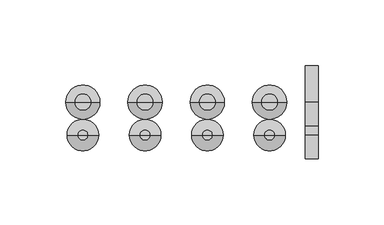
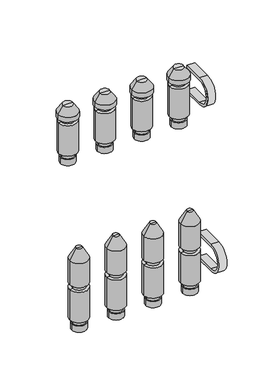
"""IFC4 building model written with IfcOpenShell, lengths in millimetres: valve geometry, PL AT_Manifold_FT-EV : 04 circuits."""

from ifc_helpers import new_model, si_unit, point, frame, frame_2d, origin, origin_2d, place, context, project, spatial, polyline, circle_curve, trimmed, segment, composite_curve, outline, extrude, source, transform, mapped, element, save
from ifc_brep_helpers import plane_surface, cylinder_surface, revolved_surface, advanced_brep


def valve_06e325c5(model_context):
    return source(origin(), model_context, "Body", "SolidModel", [
        advanced_brep(
        [(127.1666667, 0.0, -35.11267), (146.1666667, 0.0, -35.11267), (136.6666667, 0.0, -35.11267), (127.1666667, 0.0, -27.0369646), (146.1666667, 0.0, -27.0369646), (128.6666667, 0.0, -27.0369646), (144.6666667, 0.0, -27.0369646), (128.6666667, 0.0, -20.330253), (144.6666667, 0.0, -20.330253), (124.6666667, 0.0, -20.330253), (148.6666667, 0.0, -20.330253), (124.6666667, 0.0, 20.330253), (148.6666667, 0.0, 20.330253), (128.6666667, 0.0, 20.330253), (144.6666667, 0.0, 20.330253), (128.6666667, 0.0, 27.0474786), (144.6666667, 0.0, 27.0474786), (124.6666667, 0.0, 27.0474786), (148.6666667, 0.0, 27.0474786), (124.6666667, 0.0, 59.4084325), (148.6666667, 0.0, 59.4084325), (132.6666667, 0.0, 73.264839), (140.6666667, 0.0, 73.264839), (136.6666667, 0.0, 73.264839)],
        [
            (0, 1, circle_curve(frame((136.6666667, 0.0, -35.11267), z_axis=(0.0, 0.0, -1.0), x_axis=(1.0, 0.0, 0.0)), 9.5)),
            (1, 2),
            (2, 0),
            (1, 0, circle_curve(frame((136.6666667, 0.0, -35.11267), z_axis=(0.0, 0.0, -1.0), x_axis=(1.0, 0.0, 0.0)), 9.5)),
            (3, 4, circle_curve(frame((136.6666667, 0.0, -27.0369646), z_axis=(0.0, 0.0, -1.0), x_axis=(1.0, 0.0, 0.0)), 9.5)),
            (4, 1),
            (0, 3),
            (4, 3, circle_curve(frame((136.6666667, 0.0, -27.0369646), z_axis=(0.0, 0.0, -1.0), x_axis=(1.0, 0.0, 0.0)), 9.5)),
            (5, 6, circle_curve(frame((136.6666667, 0.0, -27.0369646), z_axis=(0.0, 0.0, -1.0), x_axis=(1.0, 0.0, 0.0)), 8.0)),
            (6, 4),
            (3, 5),
            (6, 5, circle_curve(frame((136.6666667, 0.0, -27.0369646), z_axis=(0.0, 0.0, -1.0), x_axis=(1.0, 0.0, 0.0)), 8.0)),
            (7, 8, circle_curve(frame((136.6666667, 0.0, -20.330253), z_axis=(0.0, 0.0, -1.0), x_axis=(1.0, 0.0, 0.0)), 8.0)),
            (8, 6),
            (5, 7),
            (8, 7, circle_curve(frame((136.6666667, 0.0, -20.330253), z_axis=(0.0, 0.0, -1.0), x_axis=(1.0, 0.0, 0.0)), 8.0)),
            (9, 10, circle_curve(frame((136.6666667, 0.0, -20.330253), z_axis=(0.0, 0.0, -1.0), x_axis=(1.0, 0.0, 0.0)), 12.0)),
            (10, 8),
            (7, 9),
            (10, 9, circle_curve(frame((136.6666667, 0.0, -20.330253), z_axis=(0.0, 0.0, -1.0), x_axis=(1.0, 0.0, 0.0)), 12.0)),
            (11, 12, circle_curve(frame((136.6666667, 0.0, 20.330253), z_axis=(0.0, 0.0, -1.0), x_axis=(1.0, 0.0, 0.0)), 12.0)),
            (12, 10),
            (9, 11),
            (12, 11, circle_curve(frame((136.6666667, 0.0, 20.330253), z_axis=(0.0, 0.0, -1.0), x_axis=(1.0, 0.0, 0.0)), 12.0)),
            (13, 14, circle_curve(frame((136.6666667, 0.0, 20.330253), z_axis=(0.0, 0.0, -1.0), x_axis=(1.0, 0.0, 0.0)), 8.0)),
            (14, 12),
            (11, 13),
            (14, 13, circle_curve(frame((136.6666667, 0.0, 20.330253), z_axis=(0.0, 0.0, -1.0), x_axis=(1.0, 0.0, 0.0)), 8.0)),
            (15, 16, circle_curve(frame((136.6666667, 0.0, 27.0474786), z_axis=(0.0, 0.0, -1.0), x_axis=(1.0, 0.0, 0.0)), 8.0)),
            (16, 14),
            (13, 15),
            (16, 15, circle_curve(frame((136.6666667, 0.0, 27.0474786), z_axis=(0.0, 0.0, -1.0), x_axis=(1.0, 0.0, 0.0)), 8.0)),
            (17, 18, circle_curve(frame((136.6666667, 0.0, 27.0474786), z_axis=(0.0, 0.0, -1.0), x_axis=(1.0, 0.0, 0.0)), 12.0)),
            (18, 16),
            (15, 17),
            (18, 17, circle_curve(frame((136.6666667, 0.0, 27.0474786), z_axis=(0.0, 0.0, -1.0), x_axis=(1.0, 0.0, 0.0)), 12.0)),
            (19, 20, circle_curve(frame((136.6666667, 0.0, 59.4084325), z_axis=(0.0, 0.0, -1.0), x_axis=(1.0, 0.0, 0.0)), 12.0)),
            (20, 18),
            (17, 19),
            (20, 19, circle_curve(frame((136.6666667, 0.0, 59.4084325), z_axis=(0.0, 0.0, -1.0), x_axis=(1.0, 0.0, 0.0)), 12.0)),
            (21, 22, circle_curve(frame((136.6666667, 0.0, 73.264839), z_axis=(0.0, 0.0, -1.0), x_axis=(1.0, 0.0, 0.0)), 4.0)),
            (22, 20),
            (19, 21),
            (22, 21, circle_curve(frame((136.6666667, 0.0, 73.264839), z_axis=(0.0, 0.0, -1.0), x_axis=(1.0, 0.0, 0.0)), 4.0)),
            (23, 22),
            (21, 23),
        ],
        [
            plane_surface(frame((136.6666667, 0.0, -35.11267), z_axis=(0.0, 0.0, -1.0), x_axis=(1.0, 0.0, 0.0))),
            cylinder_surface(frame((136.6666667, 0.0, 58.264839), z_axis=(0.0, 0.0, 1.0), x_axis=(1.0, 0.0, 0.0)), 9.5),
            plane_surface(frame((136.6666667, 0.0, -27.0369646), z_axis=(0.0, 0.0, 1.0), x_axis=(1.0, 0.0, 0.0))),
            cylinder_surface(frame((136.6666667, 0.0, 58.264839), z_axis=(0.0, 0.0, 1.0), x_axis=(1.0, 0.0, 0.0)), 8.0),
            plane_surface(frame((136.6666667, 0.0, -20.330253), z_axis=(0.0, 0.0, -1.0), x_axis=(1.0, 0.0, 0.0))),
            cylinder_surface(frame((136.6666667, 0.0, 58.264839), z_axis=(0.0, 0.0, 1.0), x_axis=(1.0, 0.0, 0.0)), 12.0),
            plane_surface(frame((136.6666667, 0.0, 20.330253), z_axis=(0.0, 0.0, 1.0), x_axis=(1.0, 0.0, 0.0))),
            plane_surface(frame((136.6666667, 0.0, 27.0474786), z_axis=(0.0, 0.0, -1.0), x_axis=(1.0, 0.0, 0.0))),
            revolved_surface(polyline([(148.6666667, 0.0, 59.4084325), (140.6666667, 0.0, 73.264839)]), (136.6666667, 0.0, 58.264839), (0.0, 0.0, 1.0)),
            plane_surface(frame((136.6666667, 0.0, 73.264839), z_axis=(0.0, 0.0, 1.0), x_axis=(1.0, 0.0, 0.0))),
        ],
        [
            (0, [[1, 2, 3]]),
            (0, [[4, -3, -2]]),
            (1, [[5, 6, -1, 7]]),
            (1, [[8, -7, -4, -6]]),
            (2, [[9, 10, -5, 11]]),
            (2, [[12, -11, -8, -10]]),
            (3, [[13, 14, -9, 15]]),
            (3, [[16, -15, -12, -14]]),
            (4, [[17, 18, -13, 19]]),
            (4, [[20, -19, -16, -18]]),
            (5, [[21, 22, -17, 23]]),
            (5, [[24, -23, -20, -22]]),
            (6, [[25, 26, -21, 27]]),
            (6, [[28, -27, -24, -26]]),
            (3, [[29, 30, -25, 31]]),
            (3, [[32, -31, -28, -30]]),
            (7, [[33, 34, -29, 35]]),
            (7, [[36, -35, -32, -34]]),
            (5, [[37, 38, -33, 39]]),
            (5, [[40, -39, -36, -38]]),
            (8, [[41, 42, -37, 43]]),
            (8, [[44, -43, -40, -42]]),
            (9, [[45, -41, 46]]),
            (9, [[-46, -44, -45]]),
        ],
    ),
        advanced_brep(
        [(127.1666667, 25.0, 174.88733), (146.1666667, 25.0, 174.88733), (136.6666667, 25.0, 174.88733), (127.1666667, 25.0, 182.9630354), (146.1666667, 25.0, 182.9630354), (128.6666667, 25.0, 182.9630354), (144.6666667, 25.0, 182.9630354), (128.6666667, 25.0, 189.669747), (144.6666667, 25.0, 189.669747), (124.6666667, 25.0, 189.669747), (148.6666667, 25.0, 189.669747), (124.6666667, 25.0, 230.330253), (148.6666667, 25.0, 230.330253), (128.6666667, 25.0, 230.330253), (144.6666667, 25.0, 230.330253), (128.6666667, 25.0, 236.0474786), (144.6666667, 25.0, 236.0474786), (123.6666667, 25.0, 236.0474786), (149.6666667, 25.0, 236.0474786), (123.6666667, 25.0, 242.337955), (149.6666667, 25.0, 242.337955), (130.3218445, 25.0, 251.842534), (143.0114888, 25.0, 251.842534), (136.6666667, 25.0, 251.842534)],
        [
            (0, 1, circle_curve(frame((136.6666667, 25.0, 174.88733), z_axis=(0.0, 0.0, -1.0), x_axis=(1.0, 0.0, 0.0)), 9.5)),
            (1, 2),
            (2, 0),
            (1, 0, circle_curve(frame((136.6666667, 25.0, 174.88733), z_axis=(0.0, 0.0, -1.0), x_axis=(1.0, 0.0, 0.0)), 9.5)),
            (3, 4, circle_curve(frame((136.6666667, 25.0, 182.9630354), z_axis=(0.0, 0.0, -1.0), x_axis=(1.0, 0.0, 0.0)), 9.5)),
            (4, 1),
            (0, 3),
            (4, 3, circle_curve(frame((136.6666667, 25.0, 182.9630354), z_axis=(0.0, 0.0, -1.0), x_axis=(1.0, 0.0, 0.0)), 9.5)),
            (5, 6, circle_curve(frame((136.6666667, 25.0, 182.9630354), z_axis=(0.0, 0.0, -1.0), x_axis=(1.0, 0.0, 0.0)), 8.0)),
            (6, 4),
            (3, 5),
            (6, 5, circle_curve(frame((136.6666667, 25.0, 182.9630354), z_axis=(0.0, 0.0, -1.0), x_axis=(1.0, 0.0, 0.0)), 8.0)),
            (7, 8, circle_curve(frame((136.6666667, 25.0, 189.669747), z_axis=(0.0, 0.0, -1.0), x_axis=(1.0, 0.0, 0.0)), 8.0)),
            (8, 6),
            (5, 7),
            (8, 7, circle_curve(frame((136.6666667, 25.0, 189.669747), z_axis=(0.0, 0.0, -1.0), x_axis=(1.0, 0.0, 0.0)), 8.0)),
            (9, 10, circle_curve(frame((136.6666667, 25.0, 189.669747), z_axis=(0.0, 0.0, -1.0), x_axis=(1.0, 0.0, 0.0)), 12.0)),
            (10, 8),
            (7, 9),
            (10, 9, circle_curve(frame((136.6666667, 25.0, 189.669747), z_axis=(0.0, 0.0, -1.0), x_axis=(1.0, 0.0, 0.0)), 12.0)),
            (11, 12, circle_curve(frame((136.6666667, 25.0, 230.330253), z_axis=(0.0, 0.0, -1.0), x_axis=(1.0, 0.0, 0.0)), 12.0)),
            (12, 10),
            (9, 11),
            (12, 11, circle_curve(frame((136.6666667, 25.0, 230.330253), z_axis=(0.0, 0.0, -1.0), x_axis=(1.0, 0.0, 0.0)), 12.0)),
            (13, 14, circle_curve(frame((136.6666667, 25.0, 230.330253), z_axis=(0.0, 0.0, -1.0), x_axis=(1.0, 0.0, 0.0)), 8.0)),
            (14, 12),
            (11, 13),
            (14, 13, circle_curve(frame((136.6666667, 25.0, 230.330253), z_axis=(0.0, 0.0, -1.0), x_axis=(1.0, 0.0, 0.0)), 8.0)),
            (15, 16, circle_curve(frame((136.6666667, 25.0, 236.0474786), z_axis=(0.0, 0.0, -1.0), x_axis=(1.0, 0.0, 0.0)), 8.0)),
            (16, 14),
            (13, 15),
            (16, 15, circle_curve(frame((136.6666667, 25.0, 236.0474786), z_axis=(0.0, 0.0, -1.0), x_axis=(1.0, 0.0, 0.0)), 8.0)),
            (17, 18, circle_curve(frame((136.6666667, 25.0, 236.0474786), z_axis=(0.0, 0.0, -1.0), x_axis=(1.0, 0.0, 0.0)), 13.0)),
            (18, 16),
            (15, 17),
            (18, 17, circle_curve(frame((136.6666667, 25.0, 236.0474786), z_axis=(0.0, 0.0, -1.0), x_axis=(1.0, 0.0, 0.0)), 13.0)),
            (19, 20, circle_curve(frame((136.6666667, 25.0, 242.337955), z_axis=(0.0, 0.0, -1.0), x_axis=(1.0, 0.0, 0.0)), 13.0)),
            (20, 18),
            (17, 19),
            (20, 19, circle_curve(frame((136.6666667, 25.0, 242.337955), z_axis=(0.0, 0.0, -1.0), x_axis=(1.0, 0.0, 0.0)), 13.0)),
            (21, 22, circle_curve(frame((136.6666667, 25.0, 251.842534), z_axis=(0.0, 0.0, -1.0), x_axis=(1.0, 0.0, 0.0)), 6.3448221)),
            (22, 20),
            (19, 21),
            (22, 21, circle_curve(frame((136.6666667, 25.0, 251.842534), z_axis=(0.0, 0.0, -1.0), x_axis=(1.0, 0.0, 0.0)), 6.3448221)),
            (23, 22),
            (21, 23),
        ],
        [
            plane_surface(frame((136.6666667, 25.0, 174.88733), z_axis=(0.0, 0.0, -1.0), x_axis=(1.0, 0.0, 0.0))),
            cylinder_surface(frame((136.6666667, 25.0, 247.7026565), z_axis=(0.0, 0.0, 1.0), x_axis=(1.0, 0.0, 0.0)), 9.5),
            plane_surface(frame((136.6666667, 25.0, 182.9630354), z_axis=(0.0, 0.0, 1.0), x_axis=(1.0, 0.0, 0.0))),
            cylinder_surface(frame((136.6666667, 25.0, 247.7026565), z_axis=(0.0, 0.0, 1.0), x_axis=(1.0, 0.0, 0.0)), 8.0),
            plane_surface(frame((136.6666667, 25.0, 189.669747), z_axis=(0.0, 0.0, -1.0), x_axis=(1.0, 0.0, 0.0))),
            cylinder_surface(frame((136.6666667, 25.0, 247.7026565), z_axis=(0.0, 0.0, 1.0), x_axis=(1.0, 0.0, 0.0)), 12.0),
            plane_surface(frame((136.6666667, 25.0, 230.330253), z_axis=(0.0, 0.0, 1.0), x_axis=(1.0, 0.0, 0.0))),
            plane_surface(frame((136.6666667, 25.0, 236.0474786), z_axis=(0.0, 0.0, -1.0), x_axis=(1.0, 0.0, 0.0))),
            cylinder_surface(frame((136.6666667, 25.0, 247.7026565), z_axis=(0.0, 0.0, 1.0), x_axis=(1.0, 0.0, 0.0)), 13.0),
            revolved_surface(polyline([(149.6666667, 25.0, 242.337955), (143.0114888, 25.0, 251.842534)]), (136.6666667, 25.0, 247.7026565), (0.0, 0.0, 1.0)),
            plane_surface(frame((136.6666667, 25.0, 251.842534), z_axis=(0.0, 0.0, 1.0), x_axis=(1.0, 0.0, 0.0))),
        ],
        [
            (0, [[1, 2, 3]]),
            (0, [[4, -3, -2]]),
            (1, [[5, 6, -1, 7]]),
            (1, [[8, -7, -4, -6]]),
            (2, [[9, 10, -5, 11]]),
            (2, [[12, -11, -8, -10]]),
            (3, [[13, 14, -9, 15]]),
            (3, [[16, -15, -12, -14]]),
            (4, [[17, 18, -13, 19]]),
            (4, [[20, -19, -16, -18]]),
            (5, [[21, 22, -17, 23]]),
            (5, [[24, -23, -20, -22]]),
            (6, [[25, 26, -21, 27]]),
            (6, [[28, -27, -24, -26]]),
            (3, [[29, 30, -25, 31]]),
            (3, [[32, -31, -28, -30]]),
            (7, [[33, 34, -29, 35]]),
            (7, [[36, -35, -32, -34]]),
            (8, [[37, 38, -33, 39]]),
            (8, [[40, -39, -36, -38]]),
            (9, [[41, 42, -37, 43]]),
            (9, [[44, -43, -40, -42]]),
            (10, [[45, -41, 46]]),
            (10, [[-46, -44, -45]]),
        ],
    ),
        advanced_brep(
        [(79.8333333, 0.0, -35.11267), (98.8333333, 0.0, -35.11267), (89.3333333, 0.0, -35.11267), (79.8333333, 0.0, -27.0369646), (98.8333333, 0.0, -27.0369646), (81.3333333, 0.0, -27.0369646), (97.3333333, 0.0, -27.0369646), (81.3333333, 0.0, -20.330253), (97.3333333, 0.0, -20.330253), (77.3333333, 0.0, -20.330253), (101.3333333, 0.0, -20.330253), (77.3333333, 0.0, 20.330253), (101.3333333, 0.0, 20.330253), (81.3333333, 0.0, 20.330253), (97.3333333, 0.0, 20.330253), (81.3333333, 0.0, 27.0474786), (97.3333333, 0.0, 27.0474786), (77.3333333, 0.0, 27.0474786), (101.3333333, 0.0, 27.0474786), (77.3333333, 0.0, 59.4084325), (101.3333333, 0.0, 59.4084325), (85.3333333, 0.0, 73.264839), (93.3333333, 0.0, 73.264839), (89.3333333, 0.0, 73.264839)],
        [
            (0, 1, circle_curve(frame((89.3333333, 0.0, -35.11267), z_axis=(0.0, 0.0, -1.0), x_axis=(1.0, 0.0, 0.0)), 9.5)),
            (1, 2),
            (2, 0),
            (1, 0, circle_curve(frame((89.3333333, 0.0, -35.11267), z_axis=(0.0, 0.0, -1.0), x_axis=(1.0, 0.0, 0.0)), 9.5)),
            (3, 4, circle_curve(frame((89.3333333, 0.0, -27.0369646), z_axis=(0.0, 0.0, -1.0), x_axis=(1.0, 0.0, 0.0)), 9.5)),
            (4, 1),
            (0, 3),
            (4, 3, circle_curve(frame((89.3333333, 0.0, -27.0369646), z_axis=(0.0, 0.0, -1.0), x_axis=(1.0, 0.0, 0.0)), 9.5)),
            (5, 6, circle_curve(frame((89.3333333, 0.0, -27.0369646), z_axis=(0.0, 0.0, -1.0), x_axis=(1.0, 0.0, 0.0)), 8.0)),
            (6, 4),
            (3, 5),
            (6, 5, circle_curve(frame((89.3333333, 0.0, -27.0369646), z_axis=(0.0, 0.0, -1.0), x_axis=(1.0, 0.0, 0.0)), 8.0)),
            (7, 8, circle_curve(frame((89.3333333, 0.0, -20.330253), z_axis=(0.0, 0.0, -1.0), x_axis=(1.0, 0.0, 0.0)), 8.0)),
            (8, 6),
            (5, 7),
            (8, 7, circle_curve(frame((89.3333333, 0.0, -20.330253), z_axis=(0.0, 0.0, -1.0), x_axis=(1.0, 0.0, 0.0)), 8.0)),
            (9, 10, circle_curve(frame((89.3333333, 0.0, -20.330253), z_axis=(0.0, 0.0, -1.0), x_axis=(1.0, 0.0, 0.0)), 12.0)),
            (10, 8),
            (7, 9),
            (10, 9, circle_curve(frame((89.3333333, 0.0, -20.330253), z_axis=(0.0, 0.0, -1.0), x_axis=(1.0, 0.0, 0.0)), 12.0)),
            (11, 12, circle_curve(frame((89.3333333, 0.0, 20.330253), z_axis=(0.0, 0.0, -1.0), x_axis=(1.0, 0.0, 0.0)), 12.0)),
            (12, 10),
            (9, 11),
            (12, 11, circle_curve(frame((89.3333333, 0.0, 20.330253), z_axis=(0.0, 0.0, -1.0), x_axis=(1.0, 0.0, 0.0)), 12.0)),
            (13, 14, circle_curve(frame((89.3333333, 0.0, 20.330253), z_axis=(0.0, 0.0, -1.0), x_axis=(1.0, 0.0, 0.0)), 8.0)),
            (14, 12),
            (11, 13),
            (14, 13, circle_curve(frame((89.3333333, 0.0, 20.330253), z_axis=(0.0, 0.0, -1.0), x_axis=(1.0, 0.0, 0.0)), 8.0)),
            (15, 16, circle_curve(frame((89.3333333, 0.0, 27.0474786), z_axis=(0.0, 0.0, -1.0), x_axis=(1.0, 0.0, 0.0)), 8.0)),
            (16, 14),
            (13, 15),
            (16, 15, circle_curve(frame((89.3333333, 0.0, 27.0474786), z_axis=(0.0, 0.0, -1.0), x_axis=(1.0, 0.0, 0.0)), 8.0)),
            (17, 18, circle_curve(frame((89.3333333, 0.0, 27.0474786), z_axis=(0.0, 0.0, -1.0), x_axis=(1.0, 0.0, 0.0)), 12.0)),
            (18, 16),
            (15, 17),
            (18, 17, circle_curve(frame((89.3333333, 0.0, 27.0474786), z_axis=(0.0, 0.0, -1.0), x_axis=(1.0, 0.0, 0.0)), 12.0)),
            (19, 20, circle_curve(frame((89.3333333, 0.0, 59.4084325), z_axis=(0.0, 0.0, -1.0), x_axis=(1.0, 0.0, 0.0)), 12.0)),
            (20, 18),
            (17, 19),
            (20, 19, circle_curve(frame((89.3333333, 0.0, 59.4084325), z_axis=(0.0, 0.0, -1.0), x_axis=(1.0, 0.0, 0.0)), 12.0)),
            (21, 22, circle_curve(frame((89.3333333, 0.0, 73.264839), z_axis=(0.0, 0.0, -1.0), x_axis=(1.0, 0.0, 0.0)), 4.0)),
            (22, 20),
            (19, 21),
            (22, 21, circle_curve(frame((89.3333333, 0.0, 73.264839), z_axis=(0.0, 0.0, -1.0), x_axis=(1.0, 0.0, 0.0)), 4.0)),
            (23, 22),
            (21, 23),
        ],
        [
            plane_surface(frame((89.3333333, 0.0, -35.11267), z_axis=(0.0, 0.0, -1.0), x_axis=(1.0, 0.0, 0.0))),
            cylinder_surface(frame((89.3333333, 0.0, 58.264839), z_axis=(0.0, 0.0, 1.0), x_axis=(1.0, 0.0, 0.0)), 9.5),
            plane_surface(frame((89.3333333, 0.0, -27.0369646), z_axis=(0.0, 0.0, 1.0), x_axis=(1.0, 0.0, 0.0))),
            cylinder_surface(frame((89.3333333, 0.0, 58.264839), z_axis=(0.0, 0.0, 1.0), x_axis=(1.0, 0.0, 0.0)), 8.0),
            plane_surface(frame((89.3333333, 0.0, -20.330253), z_axis=(0.0, 0.0, -1.0), x_axis=(1.0, 0.0, 0.0))),
            cylinder_surface(frame((89.3333333, 0.0, 58.264839), z_axis=(0.0, 0.0, 1.0), x_axis=(1.0, 0.0, 0.0)), 12.0),
            plane_surface(frame((89.3333333, 0.0, 20.330253), z_axis=(0.0, 0.0, 1.0), x_axis=(1.0, 0.0, 0.0))),
            plane_surface(frame((89.3333333, 0.0, 27.0474786), z_axis=(0.0, 0.0, -1.0), x_axis=(1.0, 0.0, 0.0))),
            revolved_surface(polyline([(101.3333333, 0.0, 59.4084325), (93.3333333, 0.0, 73.264839)]), (89.3333333, 0.0, 58.264839), (0.0, 0.0, 1.0)),
            plane_surface(frame((89.3333333, 0.0, 73.264839), z_axis=(0.0, 0.0, 1.0), x_axis=(1.0, 0.0, 0.0))),
        ],
        [
            (0, [[1, 2, 3]]),
            (0, [[4, -3, -2]]),
            (1, [[5, 6, -1, 7]]),
            (1, [[8, -7, -4, -6]]),
            (2, [[9, 10, -5, 11]]),
            (2, [[12, -11, -8, -10]]),
            (3, [[13, 14, -9, 15]]),
            (3, [[16, -15, -12, -14]]),
            (4, [[17, 18, -13, 19]]),
            (4, [[20, -19, -16, -18]]),
            (5, [[21, 22, -17, 23]]),
            (5, [[24, -23, -20, -22]]),
            (6, [[25, 26, -21, 27]]),
            (6, [[28, -27, -24, -26]]),
            (3, [[29, 30, -25, 31]]),
            (3, [[32, -31, -28, -30]]),
            (7, [[33, 34, -29, 35]]),
            (7, [[36, -35, -32, -34]]),
            (5, [[37, 38, -33, 39]]),
            (5, [[40, -39, -36, -38]]),
            (8, [[41, 42, -37, 43]]),
            (8, [[44, -43, -40, -42]]),
            (9, [[45, -41, 46]]),
            (9, [[-46, -44, -45]]),
        ],
    ),
        advanced_brep(
        [(79.8333333, 25.0, 174.88733), (98.8333333, 25.0, 174.88733), (89.3333333, 25.0, 174.88733), (79.8333333, 25.0, 182.9630354), (98.8333333, 25.0, 182.9630354), (81.3333333, 25.0, 182.9630354), (97.3333333, 25.0, 182.9630354), (81.3333333, 25.0, 189.669747), (97.3333333, 25.0, 189.669747), (77.3333333, 25.0, 189.669747), (101.3333333, 25.0, 189.669747), (77.3333333, 25.0, 230.330253), (101.3333333, 25.0, 230.330253), (81.3333333, 25.0, 230.330253), (97.3333333, 25.0, 230.330253), (81.3333333, 25.0, 236.0474786), (97.3333333, 25.0, 236.0474786), (76.3333333, 25.0, 236.0474786), (102.3333333, 25.0, 236.0474786), (76.3333333, 25.0, 242.337955), (102.3333333, 25.0, 242.337955), (82.9885112, 25.0, 251.842534), (95.6781555, 25.0, 251.842534), (89.3333333, 25.0, 251.842534)],
        [
            (0, 1, circle_curve(frame((89.3333333, 25.0, 174.88733), z_axis=(0.0, 0.0, -1.0), x_axis=(1.0, 0.0, 0.0)), 9.5)),
            (1, 2),
            (2, 0),
            (1, 0, circle_curve(frame((89.3333333, 25.0, 174.88733), z_axis=(0.0, 0.0, -1.0), x_axis=(1.0, 0.0, 0.0)), 9.5)),
            (3, 4, circle_curve(frame((89.3333333, 25.0, 182.9630354), z_axis=(0.0, 0.0, -1.0), x_axis=(1.0, 0.0, 0.0)), 9.5)),
            (4, 1),
            (0, 3),
            (4, 3, circle_curve(frame((89.3333333, 25.0, 182.9630354), z_axis=(0.0, 0.0, -1.0), x_axis=(1.0, 0.0, 0.0)), 9.5)),
            (5, 6, circle_curve(frame((89.3333333, 25.0, 182.9630354), z_axis=(0.0, 0.0, -1.0), x_axis=(1.0, 0.0, 0.0)), 8.0)),
            (6, 4),
            (3, 5),
            (6, 5, circle_curve(frame((89.3333333, 25.0, 182.9630354), z_axis=(0.0, 0.0, -1.0), x_axis=(1.0, 0.0, 0.0)), 8.0)),
            (7, 8, circle_curve(frame((89.3333333, 25.0, 189.669747), z_axis=(0.0, 0.0, -1.0), x_axis=(1.0, 0.0, 0.0)), 8.0)),
            (8, 6),
            (5, 7),
            (8, 7, circle_curve(frame((89.3333333, 25.0, 189.669747), z_axis=(0.0, 0.0, -1.0), x_axis=(1.0, 0.0, 0.0)), 8.0)),
            (9, 10, circle_curve(frame((89.3333333, 25.0, 189.669747), z_axis=(0.0, 0.0, -1.0), x_axis=(1.0, 0.0, 0.0)), 12.0)),
            (10, 8),
            (7, 9),
            (10, 9, circle_curve(frame((89.3333333, 25.0, 189.669747), z_axis=(0.0, 0.0, -1.0), x_axis=(1.0, 0.0, 0.0)), 12.0)),
            (11, 12, circle_curve(frame((89.3333333, 25.0, 230.330253), z_axis=(0.0, 0.0, -1.0), x_axis=(1.0, 0.0, 0.0)), 12.0)),
            (12, 10),
            (9, 11),
            (12, 11, circle_curve(frame((89.3333333, 25.0, 230.330253), z_axis=(0.0, 0.0, -1.0), x_axis=(1.0, 0.0, 0.0)), 12.0)),
            (13, 14, circle_curve(frame((89.3333333, 25.0, 230.330253), z_axis=(0.0, 0.0, -1.0), x_axis=(1.0, 0.0, 0.0)), 8.0)),
            (14, 12),
            (11, 13),
            (14, 13, circle_curve(frame((89.3333333, 25.0, 230.330253), z_axis=(0.0, 0.0, -1.0), x_axis=(1.0, 0.0, 0.0)), 8.0)),
            (15, 16, circle_curve(frame((89.3333333, 25.0, 236.0474786), z_axis=(0.0, 0.0, -1.0), x_axis=(1.0, 0.0, 0.0)), 8.0)),
            (16, 14),
            (13, 15),
            (16, 15, circle_curve(frame((89.3333333, 25.0, 236.0474786), z_axis=(0.0, 0.0, -1.0), x_axis=(1.0, 0.0, 0.0)), 8.0)),
            (17, 18, circle_curve(frame((89.3333333, 25.0, 236.0474786), z_axis=(0.0, 0.0, -1.0), x_axis=(1.0, 0.0, 0.0)), 13.0)),
            (18, 16),
            (15, 17),
            (18, 17, circle_curve(frame((89.3333333, 25.0, 236.0474786), z_axis=(0.0, 0.0, -1.0), x_axis=(1.0, 0.0, 0.0)), 13.0)),
            (19, 20, circle_curve(frame((89.3333333, 25.0, 242.337955), z_axis=(0.0, 0.0, -1.0), x_axis=(1.0, 0.0, 0.0)), 13.0)),
            (20, 18),
            (17, 19),
            (20, 19, circle_curve(frame((89.3333333, 25.0, 242.337955), z_axis=(0.0, 0.0, -1.0), x_axis=(1.0, 0.0, 0.0)), 13.0)),
            (21, 22, circle_curve(frame((89.3333333, 25.0, 251.842534), z_axis=(0.0, 0.0, -1.0), x_axis=(1.0, 0.0, 0.0)), 6.3448221)),
            (22, 20),
            (19, 21),
            (22, 21, circle_curve(frame((89.3333333, 25.0, 251.842534), z_axis=(0.0, 0.0, -1.0), x_axis=(1.0, 0.0, 0.0)), 6.3448221)),
            (23, 22),
            (21, 23),
        ],
        [
            plane_surface(frame((89.3333333, 25.0, 174.88733), z_axis=(0.0, 0.0, -1.0), x_axis=(1.0, 0.0, 0.0))),
            cylinder_surface(frame((89.3333333, 25.0, 247.7026565), z_axis=(0.0, 0.0, 1.0), x_axis=(1.0, 0.0, 0.0)), 9.5),
            plane_surface(frame((89.3333333, 25.0, 182.9630354), z_axis=(0.0, 0.0, 1.0), x_axis=(1.0, 0.0, 0.0))),
            cylinder_surface(frame((89.3333333, 25.0, 247.7026565), z_axis=(0.0, 0.0, 1.0), x_axis=(1.0, 0.0, 0.0)), 8.0),
            plane_surface(frame((89.3333333, 25.0, 189.669747), z_axis=(0.0, 0.0, -1.0), x_axis=(1.0, 0.0, 0.0))),
            cylinder_surface(frame((89.3333333, 25.0, 247.7026565), z_axis=(0.0, 0.0, 1.0), x_axis=(1.0, 0.0, 0.0)), 12.0),
            plane_surface(frame((89.3333333, 25.0, 230.330253), z_axis=(0.0, 0.0, 1.0), x_axis=(1.0, 0.0, 0.0))),
            plane_surface(frame((89.3333333, 25.0, 236.0474786), z_axis=(0.0, 0.0, -1.0), x_axis=(1.0, 0.0, 0.0))),
            cylinder_surface(frame((89.3333333, 25.0, 247.7026565), z_axis=(0.0, 0.0, 1.0), x_axis=(1.0, 0.0, 0.0)), 13.0),
            revolved_surface(polyline([(102.3333333, 25.0, 242.337955), (95.6781555, 25.0, 251.842534)]), (89.3333333, 25.0, 247.7026565), (0.0, 0.0, 1.0)),
            plane_surface(frame((89.3333333, 25.0, 251.842534), z_axis=(0.0, 0.0, 1.0), x_axis=(1.0, 0.0, 0.0))),
        ],
        [
            (0, [[1, 2, 3]]),
            (0, [[4, -3, -2]]),
            (1, [[5, 6, -1, 7]]),
            (1, [[8, -7, -4, -6]]),
            (2, [[9, 10, -5, 11]]),
            (2, [[12, -11, -8, -10]]),
            (3, [[13, 14, -9, 15]]),
            (3, [[16, -15, -12, -14]]),
            (4, [[17, 18, -13, 19]]),
            (4, [[20, -19, -16, -18]]),
            (5, [[21, 22, -17, 23]]),
            (5, [[24, -23, -20, -22]]),
            (6, [[25, 26, -21, 27]]),
            (6, [[28, -27, -24, -26]]),
            (3, [[29, 30, -25, 31]]),
            (3, [[32, -31, -28, -30]]),
            (7, [[33, 34, -29, 35]]),
            (7, [[36, -35, -32, -34]]),
            (8, [[37, 38, -33, 39]]),
            (8, [[40, -39, -36, -38]]),
            (9, [[41, 42, -37, 43]]),
            (9, [[44, -43, -40, -42]]),
            (10, [[45, -41, 46]]),
            (10, [[-46, -44, -45]]),
        ],
    ),
        advanced_brep(
        [(174.5, 0.0, -35.11267), (193.5, 0.0, -35.11267), (184.0, 0.0, -35.11267), (174.5, 0.0, -27.0369646), (193.5, 0.0, -27.0369646), (176.0, 0.0, -27.0369646), (192.0, 0.0, -27.0369646), (176.0, 0.0, -20.330253), (192.0, 0.0, -20.330253), (172.0, 0.0, -20.330253), (196.0, 0.0, -20.330253), (172.0, 0.0, 20.330253), (196.0, 0.0, 20.330253), (176.0, 0.0, 20.330253), (192.0, 0.0, 20.330253), (176.0, 0.0, 27.0474786), (192.0, 0.0, 27.0474786), (172.0, 0.0, 27.0474786), (196.0, 0.0, 27.0474786), (172.0, 0.0, 59.4084325), (196.0, 0.0, 59.4084325), (180.0, 0.0, 73.264839), (188.0, 0.0, 73.264839), (184.0, 0.0, 73.264839)],
        [
            (0, 1, circle_curve(frame((184.0, 0.0, -35.11267), z_axis=(0.0, 0.0, -1.0), x_axis=(1.0, 0.0, 0.0)), 9.5)),
            (1, 2),
            (2, 0),
            (1, 0, circle_curve(frame((184.0, 0.0, -35.11267), z_axis=(0.0, 0.0, -1.0), x_axis=(1.0, 0.0, 0.0)), 9.5)),
            (3, 4, circle_curve(frame((184.0, 0.0, -27.0369646), z_axis=(0.0, 0.0, -1.0), x_axis=(1.0, 0.0, 0.0)), 9.5)),
            (4, 1),
            (0, 3),
            (4, 3, circle_curve(frame((184.0, 0.0, -27.0369646), z_axis=(0.0, 0.0, -1.0), x_axis=(1.0, 0.0, 0.0)), 9.5)),
            (5, 6, circle_curve(frame((184.0, 0.0, -27.0369646), z_axis=(0.0, 0.0, -1.0), x_axis=(1.0, 0.0, 0.0)), 8.0)),
            (6, 4),
            (3, 5),
            (6, 5, circle_curve(frame((184.0, 0.0, -27.0369646), z_axis=(0.0, 0.0, -1.0), x_axis=(1.0, 0.0, 0.0)), 8.0)),
            (7, 8, circle_curve(frame((184.0, 0.0, -20.330253), z_axis=(0.0, 0.0, -1.0), x_axis=(1.0, 0.0, 0.0)), 8.0)),
            (8, 6),
            (5, 7),
            (8, 7, circle_curve(frame((184.0, 0.0, -20.330253), z_axis=(0.0, 0.0, -1.0), x_axis=(1.0, 0.0, 0.0)), 8.0)),
            (9, 10, circle_curve(frame((184.0, 0.0, -20.330253), z_axis=(0.0, 0.0, -1.0), x_axis=(1.0, 0.0, 0.0)), 12.0)),
            (10, 8),
            (7, 9),
            (10, 9, circle_curve(frame((184.0, 0.0, -20.330253), z_axis=(0.0, 0.0, -1.0), x_axis=(1.0, 0.0, 0.0)), 12.0)),
            (11, 12, circle_curve(frame((184.0, 0.0, 20.330253), z_axis=(0.0, 0.0, -1.0), x_axis=(1.0, 0.0, 0.0)), 12.0)),
            (12, 10),
            (9, 11),
            (12, 11, circle_curve(frame((184.0, 0.0, 20.330253), z_axis=(0.0, 0.0, -1.0), x_axis=(1.0, 0.0, 0.0)), 12.0)),
            (13, 14, circle_curve(frame((184.0, 0.0, 20.330253), z_axis=(0.0, 0.0, -1.0), x_axis=(1.0, 0.0, 0.0)), 8.0)),
            (14, 12),
            (11, 13),
            (14, 13, circle_curve(frame((184.0, 0.0, 20.330253), z_axis=(0.0, 0.0, -1.0), x_axis=(1.0, 0.0, 0.0)), 8.0)),
            (15, 16, circle_curve(frame((184.0, 0.0, 27.0474786), z_axis=(0.0, 0.0, -1.0), x_axis=(1.0, 0.0, 0.0)), 8.0)),
            (16, 14),
            (13, 15),
            (16, 15, circle_curve(frame((184.0, 0.0, 27.0474786), z_axis=(0.0, 0.0, -1.0), x_axis=(1.0, 0.0, 0.0)), 8.0)),
            (17, 18, circle_curve(frame((184.0, 0.0, 27.0474786), z_axis=(0.0, 0.0, -1.0), x_axis=(1.0, 0.0, 0.0)), 12.0)),
            (18, 16),
            (15, 17),
            (18, 17, circle_curve(frame((184.0, 0.0, 27.0474786), z_axis=(0.0, 0.0, -1.0), x_axis=(1.0, 0.0, 0.0)), 12.0)),
            (19, 20, circle_curve(frame((184.0, 0.0, 59.4084325), z_axis=(0.0, 0.0, -1.0), x_axis=(1.0, 0.0, 0.0)), 12.0)),
            (20, 18),
            (17, 19),
            (20, 19, circle_curve(frame((184.0, 0.0, 59.4084325), z_axis=(0.0, 0.0, -1.0), x_axis=(1.0, 0.0, 0.0)), 12.0)),
            (21, 22, circle_curve(frame((184.0, 0.0, 73.264839), z_axis=(0.0, 0.0, -1.0), x_axis=(1.0, 0.0, 0.0)), 4.0)),
            (22, 20),
            (19, 21),
            (22, 21, circle_curve(frame((184.0, 0.0, 73.264839), z_axis=(0.0, 0.0, -1.0), x_axis=(1.0, 0.0, 0.0)), 4.0)),
            (23, 22),
            (21, 23),
        ],
        [
            plane_surface(frame((184.0, 0.0, -35.11267), z_axis=(0.0, 0.0, -1.0), x_axis=(1.0, 0.0, 0.0))),
            cylinder_surface(frame((184.0, 0.0, 58.264839), z_axis=(0.0, 0.0, 1.0), x_axis=(1.0, 0.0, 0.0)), 9.5),
            plane_surface(frame((184.0, 0.0, -27.0369646), z_axis=(0.0, 0.0, 1.0), x_axis=(1.0, 0.0, 0.0))),
            cylinder_surface(frame((184.0, 0.0, 58.264839), z_axis=(0.0, 0.0, 1.0), x_axis=(1.0, 0.0, 0.0)), 8.0),
            plane_surface(frame((184.0, 0.0, -20.330253), z_axis=(0.0, 0.0, -1.0), x_axis=(1.0, 0.0, 0.0))),
            cylinder_surface(frame((184.0, 0.0, 58.264839), z_axis=(0.0, 0.0, 1.0), x_axis=(1.0, 0.0, 0.0)), 12.0),
            plane_surface(frame((184.0, 0.0, 20.330253), z_axis=(0.0, 0.0, 1.0), x_axis=(1.0, 0.0, 0.0))),
            plane_surface(frame((184.0, 0.0, 27.0474786), z_axis=(0.0, 0.0, -1.0), x_axis=(1.0, 0.0, 0.0))),
            revolved_surface(polyline([(196.0, 0.0, 59.4084325), (188.0, 0.0, 73.264839)]), (184.0, 0.0, 58.264839), (0.0, 0.0, 1.0)),
            plane_surface(frame((184.0, 0.0, 73.264839), z_axis=(0.0, 0.0, 1.0), x_axis=(1.0, 0.0, 0.0))),
        ],
        [
            (0, [[1, 2, 3]]),
            (0, [[4, -3, -2]]),
            (1, [[5, 6, -1, 7]]),
            (1, [[8, -7, -4, -6]]),
            (2, [[9, 10, -5, 11]]),
            (2, [[12, -11, -8, -10]]),
            (3, [[13, 14, -9, 15]]),
            (3, [[16, -15, -12, -14]]),
            (4, [[17, 18, -13, 19]]),
            (4, [[20, -19, -16, -18]]),
            (5, [[21, 22, -17, 23]]),
            (5, [[24, -23, -20, -22]]),
            (6, [[25, 26, -21, 27]]),
            (6, [[28, -27, -24, -26]]),
            (3, [[29, 30, -25, 31]]),
            (3, [[32, -31, -28, -30]]),
            (7, [[33, 34, -29, 35]]),
            (7, [[36, -35, -32, -34]]),
            (5, [[37, 38, -33, 39]]),
            (5, [[40, -39, -36, -38]]),
            (8, [[41, 42, -37, 43]]),
            (8, [[44, -43, -40, -42]]),
            (9, [[45, -41, 46]]),
            (9, [[-46, -44, -45]]),
        ],
    ),
        advanced_brep(
        [(174.5, 25.0, 174.88733), (193.5, 25.0, 174.88733), (184.0, 25.0, 174.88733), (174.5, 25.0, 182.9630354), (193.5, 25.0, 182.9630354), (176.0, 25.0, 182.9630354), (192.0, 25.0, 182.9630354), (176.0, 25.0, 189.669747), (192.0, 25.0, 189.669747), (172.0, 25.0, 189.669747), (196.0, 25.0, 189.669747), (172.0, 25.0, 230.330253), (196.0, 25.0, 230.330253), (176.0, 25.0, 230.330253), (192.0, 25.0, 230.330253), (176.0, 25.0, 236.0474786), (192.0, 25.0, 236.0474786), (171.0, 25.0, 236.0474786), (197.0, 25.0, 236.0474786), (171.0, 25.0, 242.337955), (197.0, 25.0, 242.337955), (177.6551779, 25.0, 251.842534), (190.3448221, 25.0, 251.842534), (184.0, 25.0, 251.842534)],
        [
            (0, 1, circle_curve(frame((184.0, 25.0, 174.88733), z_axis=(0.0, 0.0, -1.0), x_axis=(1.0, 0.0, 0.0)), 9.5)),
            (1, 2),
            (2, 0),
            (1, 0, circle_curve(frame((184.0, 25.0, 174.88733), z_axis=(0.0, 0.0, -1.0), x_axis=(1.0, 0.0, 0.0)), 9.5)),
            (3, 4, circle_curve(frame((184.0, 25.0, 182.9630354), z_axis=(0.0, 0.0, -1.0), x_axis=(1.0, 0.0, 0.0)), 9.5)),
            (4, 1),
            (0, 3),
            (4, 3, circle_curve(frame((184.0, 25.0, 182.9630354), z_axis=(0.0, 0.0, -1.0), x_axis=(1.0, 0.0, 0.0)), 9.5)),
            (5, 6, circle_curve(frame((184.0, 25.0, 182.9630354), z_axis=(0.0, 0.0, -1.0), x_axis=(1.0, 0.0, 0.0)), 8.0)),
            (6, 4),
            (3, 5),
            (6, 5, circle_curve(frame((184.0, 25.0, 182.9630354), z_axis=(0.0, 0.0, -1.0), x_axis=(1.0, 0.0, 0.0)), 8.0)),
            (7, 8, circle_curve(frame((184.0, 25.0, 189.669747), z_axis=(0.0, 0.0, -1.0), x_axis=(1.0, 0.0, 0.0)), 8.0)),
            (8, 6),
            (5, 7),
            (8, 7, circle_curve(frame((184.0, 25.0, 189.669747), z_axis=(0.0, 0.0, -1.0), x_axis=(1.0, 0.0, 0.0)), 8.0)),
            (9, 10, circle_curve(frame((184.0, 25.0, 189.669747), z_axis=(0.0, 0.0, -1.0), x_axis=(1.0, 0.0, 0.0)), 12.0)),
            (10, 8),
            (7, 9),
            (10, 9, circle_curve(frame((184.0, 25.0, 189.669747), z_axis=(0.0, 0.0, -1.0), x_axis=(1.0, 0.0, 0.0)), 12.0)),
            (11, 12, circle_curve(frame((184.0, 25.0, 230.330253), z_axis=(0.0, 0.0, -1.0), x_axis=(1.0, 0.0, 0.0)), 12.0)),
            (12, 10),
            (9, 11),
            (12, 11, circle_curve(frame((184.0, 25.0, 230.330253), z_axis=(0.0, 0.0, -1.0), x_axis=(1.0, 0.0, 0.0)), 12.0)),
            (13, 14, circle_curve(frame((184.0, 25.0, 230.330253), z_axis=(0.0, 0.0, -1.0), x_axis=(1.0, 0.0, 0.0)), 8.0)),
            (14, 12),
            (11, 13),
            (14, 13, circle_curve(frame((184.0, 25.0, 230.330253), z_axis=(0.0, 0.0, -1.0), x_axis=(1.0, 0.0, 0.0)), 8.0)),
            (15, 16, circle_curve(frame((184.0, 25.0, 236.0474786), z_axis=(0.0, 0.0, -1.0), x_axis=(1.0, 0.0, 0.0)), 8.0)),
            (16, 14),
            (13, 15),
            (16, 15, circle_curve(frame((184.0, 25.0, 236.0474786), z_axis=(0.0, 0.0, -1.0), x_axis=(1.0, 0.0, 0.0)), 8.0)),
            (17, 18, circle_curve(frame((184.0, 25.0, 236.0474786), z_axis=(0.0, 0.0, -1.0), x_axis=(1.0, 0.0, 0.0)), 13.0)),
            (18, 16),
            (15, 17),
            (18, 17, circle_curve(frame((184.0, 25.0, 236.0474786), z_axis=(0.0, 0.0, -1.0), x_axis=(1.0, 0.0, 0.0)), 13.0)),
            (19, 20, circle_curve(frame((184.0, 25.0, 242.337955), z_axis=(0.0, 0.0, -1.0), x_axis=(1.0, 0.0, 0.0)), 13.0)),
            (20, 18),
            (17, 19),
            (20, 19, circle_curve(frame((184.0, 25.0, 242.337955), z_axis=(0.0, 0.0, -1.0), x_axis=(1.0, 0.0, 0.0)), 13.0)),
            (21, 22, circle_curve(frame((184.0, 25.0, 251.842534), z_axis=(0.0, 0.0, -1.0), x_axis=(1.0, 0.0, 0.0)), 6.3448221)),
            (22, 20),
            (19, 21),
            (22, 21, circle_curve(frame((184.0, 25.0, 251.842534), z_axis=(0.0, 0.0, -1.0), x_axis=(1.0, 0.0, 0.0)), 6.3448221)),
            (23, 22),
            (21, 23),
        ],
        [
            plane_surface(frame((184.0, 25.0, 174.88733), z_axis=(0.0, 0.0, -1.0), x_axis=(1.0, 0.0, 0.0))),
            cylinder_surface(frame((184.0, 25.0, 247.7026565), z_axis=(0.0, 0.0, 1.0), x_axis=(1.0, 0.0, 0.0)), 9.5),
            plane_surface(frame((184.0, 25.0, 182.9630354), z_axis=(0.0, 0.0, 1.0), x_axis=(1.0, 0.0, 0.0))),
            cylinder_surface(frame((184.0, 25.0, 247.7026565), z_axis=(0.0, 0.0, 1.0), x_axis=(1.0, 0.0, 0.0)), 8.0),
            plane_surface(frame((184.0, 25.0, 189.669747), z_axis=(0.0, 0.0, -1.0), x_axis=(1.0, 0.0, 0.0))),
            cylinder_surface(frame((184.0, 25.0, 247.7026565), z_axis=(0.0, 0.0, 1.0), x_axis=(1.0, 0.0, 0.0)), 12.0),
            plane_surface(frame((184.0, 25.0, 230.330253), z_axis=(0.0, 0.0, 1.0), x_axis=(1.0, 0.0, 0.0))),
            plane_surface(frame((184.0, 25.0, 236.0474786), z_axis=(0.0, 0.0, -1.0), x_axis=(1.0, 0.0, 0.0))),
            cylinder_surface(frame((184.0, 25.0, 247.7026565), z_axis=(0.0, 0.0, 1.0), x_axis=(1.0, 0.0, 0.0)), 13.0),
            revolved_surface(polyline([(197.0, 25.0, 242.337955), (190.3448221, 25.0, 251.842534)]), (184.0, 25.0, 247.7026565), (0.0, 0.0, 1.0)),
            plane_surface(frame((184.0, 25.0, 251.842534), z_axis=(0.0, 0.0, 1.0), x_axis=(1.0, 0.0, 0.0))),
        ],
        [
            (0, [[1, 2, 3]]),
            (0, [[4, -3, -2]]),
            (1, [[5, 6, -1, 7]]),
            (1, [[8, -7, -4, -6]]),
            (2, [[9, 10, -5, 11]]),
            (2, [[12, -11, -8, -10]]),
            (3, [[13, 14, -9, 15]]),
            (3, [[16, -15, -12, -14]]),
            (4, [[17, 18, -13, 19]]),
            (4, [[20, -19, -16, -18]]),
            (5, [[21, 22, -17, 23]]),
            (5, [[24, -23, -20, -22]]),
            (6, [[25, 26, -21, 27]]),
            (6, [[28, -27, -24, -26]]),
            (3, [[29, 30, -25, 31]]),
            (3, [[32, -31, -28, -30]]),
            (7, [[33, 34, -29, 35]]),
            (7, [[36, -35, -32, -34]]),
            (8, [[37, 38, -33, 39]]),
            (8, [[40, -39, -36, -38]]),
            (9, [[41, 42, -37, 43]]),
            (9, [[44, -43, -40, -42]]),
            (10, [[45, -41, 46]]),
            (10, [[-46, -44, -45]]),
        ],
    ),
        advanced_brep(
        [(32.5, 25.0, 174.88733), (51.5, 25.0, 174.88733), (42.0, 25.0, 174.88733), (32.5, 25.0, 182.9630354), (51.5, 25.0, 182.9630354), (34.0, 25.0, 182.9630354), (50.0, 25.0, 182.9630354), (34.0, 25.0, 189.669747), (50.0, 25.0, 189.669747), (30.0, 25.0, 189.669747), (54.0, 25.0, 189.669747), (30.0, 25.0, 230.330253), (54.0, 25.0, 230.330253), (34.0, 25.0, 230.330253), (50.0, 25.0, 230.330253), (34.0, 25.0, 236.0474786), (50.0, 25.0, 236.0474786), (29.0, 25.0, 236.0474786), (55.0, 25.0, 236.0474786), (29.0, 25.0, 242.337955), (55.0, 25.0, 242.337955), (35.6551779, 25.0, 251.842534), (48.3448221, 25.0, 251.842534), (42.0, 25.0, 251.842534)],
        [
            (0, 1, circle_curve(frame((42.0, 25.0, 174.88733), z_axis=(0.0, 0.0, -1.0), x_axis=(1.0, 0.0, 0.0)), 9.5)),
            (1, 2),
            (2, 0),
            (1, 0, circle_curve(frame((42.0, 25.0, 174.88733), z_axis=(0.0, 0.0, -1.0), x_axis=(1.0, 0.0, 0.0)), 9.5)),
            (3, 4, circle_curve(frame((42.0, 25.0, 182.9630354), z_axis=(0.0, 0.0, -1.0), x_axis=(1.0, 0.0, 0.0)), 9.5)),
            (4, 1),
            (0, 3),
            (4, 3, circle_curve(frame((42.0, 25.0, 182.9630354), z_axis=(0.0, 0.0, -1.0), x_axis=(1.0, 0.0, 0.0)), 9.5)),
            (5, 6, circle_curve(frame((42.0, 25.0, 182.9630354), z_axis=(0.0, 0.0, -1.0), x_axis=(1.0, 0.0, 0.0)), 8.0)),
            (6, 4),
            (3, 5),
            (6, 5, circle_curve(frame((42.0, 25.0, 182.9630354), z_axis=(0.0, 0.0, -1.0), x_axis=(1.0, 0.0, 0.0)), 8.0)),
            (7, 8, circle_curve(frame((42.0, 25.0, 189.669747), z_axis=(0.0, 0.0, -1.0), x_axis=(1.0, 0.0, 0.0)), 8.0)),
            (8, 6),
            (5, 7),
            (8, 7, circle_curve(frame((42.0, 25.0, 189.669747), z_axis=(0.0, 0.0, -1.0), x_axis=(1.0, 0.0, 0.0)), 8.0)),
            (9, 10, circle_curve(frame((42.0, 25.0, 189.669747), z_axis=(0.0, 0.0, -1.0), x_axis=(1.0, 0.0, 0.0)), 12.0)),
            (10, 8),
            (7, 9),
            (10, 9, circle_curve(frame((42.0, 25.0, 189.669747), z_axis=(0.0, 0.0, -1.0), x_axis=(1.0, 0.0, 0.0)), 12.0)),
            (11, 12, circle_curve(frame((42.0, 25.0, 230.330253), z_axis=(0.0, 0.0, -1.0), x_axis=(1.0, 0.0, 0.0)), 12.0)),
            (12, 10),
            (9, 11),
            (12, 11, circle_curve(frame((42.0, 25.0, 230.330253), z_axis=(0.0, 0.0, -1.0), x_axis=(1.0, 0.0, 0.0)), 12.0)),
            (13, 14, circle_curve(frame((42.0, 25.0, 230.330253), z_axis=(0.0, 0.0, -1.0), x_axis=(1.0, 0.0, 0.0)), 8.0)),
            (14, 12),
            (11, 13),
            (14, 13, circle_curve(frame((42.0, 25.0, 230.330253), z_axis=(0.0, 0.0, -1.0), x_axis=(1.0, 0.0, 0.0)), 8.0)),
            (15, 16, circle_curve(frame((42.0, 25.0, 236.0474786), z_axis=(0.0, 0.0, -1.0), x_axis=(1.0, 0.0, 0.0)), 8.0)),
            (16, 14),
            (13, 15),
            (16, 15, circle_curve(frame((42.0, 25.0, 236.0474786), z_axis=(0.0, 0.0, -1.0), x_axis=(1.0, 0.0, 0.0)), 8.0)),
            (17, 18, circle_curve(frame((42.0, 25.0, 236.0474786), z_axis=(0.0, 0.0, -1.0), x_axis=(1.0, 0.0, 0.0)), 13.0)),
            (18, 16),
            (15, 17),
            (18, 17, circle_curve(frame((42.0, 25.0, 236.0474786), z_axis=(0.0, 0.0, -1.0), x_axis=(1.0, 0.0, 0.0)), 13.0)),
            (19, 20, circle_curve(frame((42.0, 25.0, 242.337955), z_axis=(0.0, 0.0, -1.0), x_axis=(1.0, 0.0, 0.0)), 13.0)),
            (20, 18),
            (17, 19),
            (20, 19, circle_curve(frame((42.0, 25.0, 242.337955), z_axis=(0.0, 0.0, -1.0), x_axis=(1.0, 0.0, 0.0)), 13.0)),
            (21, 22, circle_curve(frame((42.0, 25.0, 251.842534), z_axis=(0.0, 0.0, -1.0), x_axis=(1.0, 0.0, 0.0)), 6.3448221)),
            (22, 20),
            (19, 21),
            (22, 21, circle_curve(frame((42.0, 25.0, 251.842534), z_axis=(0.0, 0.0, -1.0), x_axis=(1.0, 0.0, 0.0)), 6.3448221)),
            (23, 22),
            (21, 23),
        ],
        [
            plane_surface(frame((42.0, 25.0, 174.88733), z_axis=(0.0, 0.0, -1.0), x_axis=(1.0, 0.0, 0.0))),
            cylinder_surface(frame((42.0, 25.0, 247.7026565), z_axis=(0.0, 0.0, 1.0), x_axis=(1.0, 0.0, 0.0)), 9.5),
            plane_surface(frame((42.0, 25.0, 182.9630354), z_axis=(0.0, 0.0, 1.0), x_axis=(1.0, 0.0, 0.0))),
            cylinder_surface(frame((42.0, 25.0, 247.7026565), z_axis=(0.0, 0.0, 1.0), x_axis=(1.0, 0.0, 0.0)), 8.0),
            plane_surface(frame((42.0, 25.0, 189.669747), z_axis=(0.0, 0.0, -1.0), x_axis=(1.0, 0.0, 0.0))),
            cylinder_surface(frame((42.0, 25.0, 247.7026565), z_axis=(0.0, 0.0, 1.0), x_axis=(1.0, 0.0, 0.0)), 12.0),
            plane_surface(frame((42.0, 25.0, 230.330253), z_axis=(0.0, 0.0, 1.0), x_axis=(1.0, 0.0, 0.0))),
            plane_surface(frame((42.0, 25.0, 236.0474786), z_axis=(0.0, 0.0, -1.0), x_axis=(1.0, 0.0, 0.0))),
            cylinder_surface(frame((42.0, 25.0, 247.7026565), z_axis=(0.0, 0.0, 1.0), x_axis=(1.0, 0.0, 0.0)), 13.0),
            revolved_surface(polyline([(55.0, 25.0, 242.337955), (48.3448221, 25.0, 251.842534)]), (42.0, 25.0, 247.7026565), (0.0, 0.0, 1.0)),
            plane_surface(frame((42.0, 25.0, 251.842534), z_axis=(0.0, 0.0, 1.0), x_axis=(1.0, 0.0, 0.0))),
        ],
        [
            (0, [[1, 2, 3]]),
            (0, [[4, -3, -2]]),
            (1, [[5, 6, -1, 7]]),
            (1, [[8, -7, -4, -6]]),
            (2, [[9, 10, -5, 11]]),
            (2, [[12, -11, -8, -10]]),
            (3, [[13, 14, -9, 15]]),
            (3, [[16, -15, -12, -14]]),
            (4, [[17, 18, -13, 19]]),
            (4, [[20, -19, -16, -18]]),
            (5, [[21, 22, -17, 23]]),
            (5, [[24, -23, -20, -22]]),
            (6, [[25, 26, -21, 27]]),
            (6, [[28, -27, -24, -26]]),
            (3, [[29, 30, -25, 31]]),
            (3, [[32, -31, -28, -30]]),
            (7, [[33, 34, -29, 35]]),
            (7, [[36, -35, -32, -34]]),
            (8, [[37, 38, -33, 39]]),
            (8, [[40, -39, -36, -38]]),
            (9, [[41, 42, -37, 43]]),
            (9, [[44, -43, -40, -42]]),
            (10, [[45, -41, 46]]),
            (10, [[-46, -44, -45]]),
        ],
    ),
        advanced_brep(
        [(32.5, 0.0, -35.11267), (51.5, 0.0, -35.11267), (42.0, 0.0, -35.11267), (32.5, 0.0, -27.0369646), (51.5, 0.0, -27.0369646), (34.0, 0.0, -27.0369646), (50.0, 0.0, -27.0369646), (34.0, 0.0, -20.330253), (50.0, 0.0, -20.330253), (30.0, 0.0, -20.330253), (54.0, 0.0, -20.330253), (30.0, 0.0, 20.330253), (54.0, 0.0, 20.330253), (34.0, 0.0, 20.330253), (50.0, 0.0, 20.330253), (34.0, 0.0, 27.0474786), (50.0, 0.0, 27.0474786), (30.0, 0.0, 27.0474786), (54.0, 0.0, 27.0474786), (30.0, 0.0, 59.4084325), (54.0, 0.0, 59.4084325), (38.0, 0.0, 73.264839), (46.0, 0.0, 73.264839), (42.0, 0.0, 73.264839)],
        [
            (0, 1, circle_curve(frame((42.0, 0.0, -35.11267), z_axis=(0.0, 0.0, -1.0), x_axis=(1.0, 0.0, 0.0)), 9.5)),
            (1, 2),
            (2, 0),
            (1, 0, circle_curve(frame((42.0, 0.0, -35.11267), z_axis=(0.0, 0.0, -1.0), x_axis=(1.0, 0.0, 0.0)), 9.5)),
            (3, 4, circle_curve(frame((42.0, 0.0, -27.0369646), z_axis=(0.0, 0.0, -1.0), x_axis=(1.0, 0.0, 0.0)), 9.5)),
            (4, 1),
            (0, 3),
            (4, 3, circle_curve(frame((42.0, 0.0, -27.0369646), z_axis=(0.0, 0.0, -1.0), x_axis=(1.0, 0.0, 0.0)), 9.5)),
            (5, 6, circle_curve(frame((42.0, 0.0, -27.0369646), z_axis=(0.0, 0.0, -1.0), x_axis=(1.0, 0.0, 0.0)), 8.0)),
            (6, 4),
            (3, 5),
            (6, 5, circle_curve(frame((42.0, 0.0, -27.0369646), z_axis=(0.0, 0.0, -1.0), x_axis=(1.0, 0.0, 0.0)), 8.0)),
            (7, 8, circle_curve(frame((42.0, 0.0, -20.330253), z_axis=(0.0, 0.0, -1.0), x_axis=(1.0, 0.0, 0.0)), 8.0)),
            (8, 6),
            (5, 7),
            (8, 7, circle_curve(frame((42.0, 0.0, -20.330253), z_axis=(0.0, 0.0, -1.0), x_axis=(1.0, 0.0, 0.0)), 8.0)),
            (9, 10, circle_curve(frame((42.0, 0.0, -20.330253), z_axis=(0.0, 0.0, -1.0), x_axis=(1.0, 0.0, 0.0)), 12.0)),
            (10, 8),
            (7, 9),
            (10, 9, circle_curve(frame((42.0, 0.0, -20.330253), z_axis=(0.0, 0.0, -1.0), x_axis=(1.0, 0.0, 0.0)), 12.0)),
            (11, 12, circle_curve(frame((42.0, 0.0, 20.330253), z_axis=(0.0, 0.0, -1.0), x_axis=(1.0, 0.0, 0.0)), 12.0)),
            (12, 10),
            (9, 11),
            (12, 11, circle_curve(frame((42.0, 0.0, 20.330253), z_axis=(0.0, 0.0, -1.0), x_axis=(1.0, 0.0, 0.0)), 12.0)),
            (13, 14, circle_curve(frame((42.0, 0.0, 20.330253), z_axis=(0.0, 0.0, -1.0), x_axis=(1.0, 0.0, 0.0)), 8.0)),
            (14, 12),
            (11, 13),
            (14, 13, circle_curve(frame((42.0, 0.0, 20.330253), z_axis=(0.0, 0.0, -1.0), x_axis=(1.0, 0.0, 0.0)), 8.0)),
            (15, 16, circle_curve(frame((42.0, 0.0, 27.0474786), z_axis=(0.0, 0.0, -1.0), x_axis=(1.0, 0.0, 0.0)), 8.0)),
            (16, 14),
            (13, 15),
            (16, 15, circle_curve(frame((42.0, 0.0, 27.0474786), z_axis=(0.0, 0.0, -1.0), x_axis=(1.0, 0.0, 0.0)), 8.0)),
            (17, 18, circle_curve(frame((42.0, 0.0, 27.0474786), z_axis=(0.0, 0.0, -1.0), x_axis=(1.0, 0.0, 0.0)), 12.0)),
            (18, 16),
            (15, 17),
            (18, 17, circle_curve(frame((42.0, 0.0, 27.0474786), z_axis=(0.0, 0.0, -1.0), x_axis=(1.0, 0.0, 0.0)), 12.0)),
            (19, 20, circle_curve(frame((42.0, 0.0, 59.4084325), z_axis=(0.0, 0.0, -1.0), x_axis=(1.0, 0.0, 0.0)), 12.0)),
            (20, 18),
            (17, 19),
            (20, 19, circle_curve(frame((42.0, 0.0, 59.4084325), z_axis=(0.0, 0.0, -1.0), x_axis=(1.0, 0.0, 0.0)), 12.0)),
            (21, 22, circle_curve(frame((42.0, 0.0, 73.264839), z_axis=(0.0, 0.0, -1.0), x_axis=(1.0, 0.0, 0.0)), 4.0)),
            (22, 20),
            (19, 21),
            (22, 21, circle_curve(frame((42.0, 0.0, 73.264839), z_axis=(0.0, 0.0, -1.0), x_axis=(1.0, 0.0, 0.0)), 4.0)),
            (23, 22),
            (21, 23),
        ],
        [
            plane_surface(frame((42.0, 0.0, -35.11267), z_axis=(0.0, 0.0, -1.0), x_axis=(1.0, 0.0, 0.0))),
            cylinder_surface(frame((42.0, 0.0, 58.264839), z_axis=(0.0, 0.0, 1.0), x_axis=(1.0, 0.0, 0.0)), 9.5),
            plane_surface(frame((42.0, 0.0, -27.0369646), z_axis=(0.0, 0.0, 1.0), x_axis=(1.0, 0.0, 0.0))),
            cylinder_surface(frame((42.0, 0.0, 58.264839), z_axis=(0.0, 0.0, 1.0), x_axis=(1.0, 0.0, 0.0)), 8.0),
            plane_surface(frame((42.0, 0.0, -20.330253), z_axis=(0.0, 0.0, -1.0), x_axis=(1.0, 0.0, 0.0))),
            cylinder_surface(frame((42.0, 0.0, 58.264839), z_axis=(0.0, 0.0, 1.0), x_axis=(1.0, 0.0, 0.0)), 12.0),
            plane_surface(frame((42.0, 0.0, 20.330253), z_axis=(0.0, 0.0, 1.0), x_axis=(1.0, 0.0, 0.0))),
            plane_surface(frame((42.0, 0.0, 27.0474786), z_axis=(0.0, 0.0, -1.0), x_axis=(1.0, 0.0, 0.0))),
            revolved_surface(polyline([(54.0, 0.0, 59.4084325), (46.0, 0.0, 73.264839)]), (42.0, 0.0, 58.264839), (0.0, 0.0, 1.0)),
            plane_surface(frame((42.0, 0.0, 73.264839), z_axis=(0.0, 0.0, 1.0), x_axis=(1.0, 0.0, 0.0))),
        ],
        [
            (0, [[1, 2, 3]]),
            (0, [[4, -3, -2]]),
            (1, [[5, 6, -1, 7]]),
            (1, [[8, -7, -4, -6]]),
            (2, [[9, 10, -5, 11]]),
            (2, [[12, -11, -8, -10]]),
            (3, [[13, 14, -9, 15]]),
            (3, [[16, -15, -12, -14]]),
            (4, [[17, 18, -13, 19]]),
            (4, [[20, -19, -16, -18]]),
            (5, [[21, 22, -17, 23]]),
            (5, [[24, -23, -20, -22]]),
            (6, [[25, 26, -21, 27]]),
            (6, [[28, -27, -24, -26]]),
            (3, [[29, 30, -25, 31]]),
            (3, [[32, -31, -28, -30]]),
            (7, [[33, 34, -29, 35]]),
            (7, [[36, -35, -32, -34]]),
            (5, [[37, 38, -33, 39]]),
            (5, [[40, -39, -36, -38]]),
            (8, [[41, 42, -37, 43]]),
            (8, [[44, -43, -40, -42]]),
            (9, [[45, -41, 46]]),
            (9, [[-46, -44, -45]]),
        ],
    ),
        extrude(outline(composite_curve([segment(trimmed(circle_curve(origin_2d(), 15.0), [point((0.0, 15.0))], [point((0.0, -15.0))], True, "CARTESIAN"), True, "CONTINUOUS"), segment(polyline([(0.0, -15.0), (27.6751284, -15.0), (27.6751284, -18.0), (0.0, -18.0)]), True, "CONTINUOUS"), segment(trimmed(circle_curve(origin_2d(), 18.0), [point((0.0, -18.0))], [point((0.0, 18.0))], False, "CARTESIAN"), True, "CONTINUOUS"), segment(polyline([(0.0, 18.0), (27.6751284, 18.0), (27.6751284, 15.0), (0.0, 15.0)]), True, "CONTINUOUS")], self_intersect=False)), frame((211.0, 0.0, 0.0), z_axis=(1.0, 0.0, 0.0), x_axis=(0.0, 1.0, 0.0)), (0.0, 0.0, 1.0), 10.0),
        extrude(outline(composite_curve([segment(trimmed(circle_curve(frame_2d((25.0, 210.0)), 15.0), [point((25.0, 225.0))], [point((25.0, 195.0))], True, "CARTESIAN"), True, "CONTINUOUS"), segment(polyline([(25.0, 195.0), (52.6751284, 195.0), (52.6751284, 192.0), (25.0, 192.0)]), True, "CONTINUOUS"), segment(trimmed(circle_curve(frame_2d((25.0, 210.0)), 18.0), [point((25.0, 192.0))], [point((25.0, 228.0))], False, "CARTESIAN"), True, "CONTINUOUS"), segment(polyline([(25.0, 228.0), (52.6751284, 228.0), (52.6751284, 225.0), (25.0, 225.0)]), True, "CONTINUOUS")], self_intersect=False)), frame((211.0, 0.0, 0.0), z_axis=(1.0, 0.0, 0.0), x_axis=(0.0, 1.0, 0.0)), (0.0, 0.0, 1.0), 10.0),
    ])


if __name__ == "__main__":
    model = new_model("IFC4")
    model_context = context("Model", 3, world=origin())
    ifc_project = project(units=[si_unit("LENGTHUNIT", "METRE", prefix="MILLI")], contexts=[model_context])
    site = spatial("IfcSite", under=ifc_project)
    building = spatial("IfcBuilding", under=site)
    placement = place(None, origin())
    valve_shape = valve_06e325c5(model_context)
    element("IfcValve", 1, ObjectType="PL AT_Manifold_FT-EV : 04 circuits", at=placement, inside=building, context=model_context, shape_type="MappedRepresentation", body=[
        mapped(valve_shape, transform((0.0, 0.0, 0.0), x_axis=(1.0, 0.0, 0.0), y_axis=(0.0, 1.0, 0.0), z_axis=(0.0, 0.0, 1.0))),
    ])
    save(model, "model.ifc")
